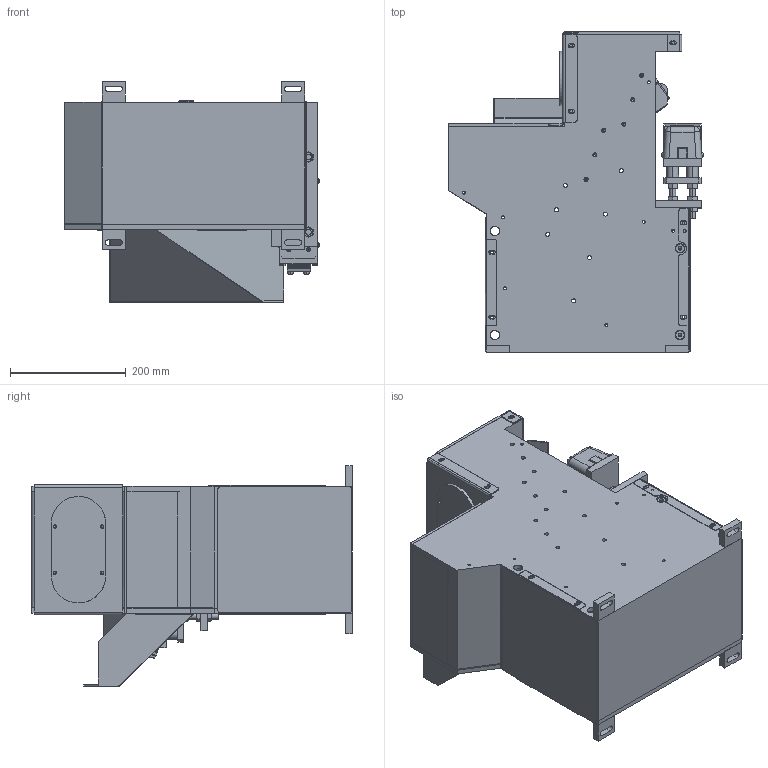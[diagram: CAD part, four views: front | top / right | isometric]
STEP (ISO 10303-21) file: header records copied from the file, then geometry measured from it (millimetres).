
FILE_DESCRIPTION (( 'STEP AP203' ), '1' );
FILE_NAME ('小气动 推板.STEP', '2025-06-26T08:55:42', ( '' ), ( '' ), 'SwSTEP 2.0', 'SolidWorks 2022', '' );
FILE_SCHEMA (( 'CONFIG_CONTROL_DESIGN' ));
Length unit declared in the file: millimetre
Products named in the file (1): 苤ァ雄 芢啣
Bounding box: 440.3 x 555 x 381 mm (x, y, z)
Surface area: 3030048.8 mm2 (no closed solid volume)
Topology: 0 solids, 109 shells, 1964 faces, 5134 edges, 3315 vertices
Faces by surface type: plane 803, cylinder 770, cone 293, bspline 98
Entity records: 102363 total; most frequent: CARTESIAN_POINT 64636, ORIENTED_EDGE 9624, EDGE_CURVE 5032, B_SPLINE_CURVE_WITH_KNOTS 4968, DIRECTION 3744, VERTEX_POINT 3315, EDGE_LOOP 2533, FACE_OUTER_BOUND 1964
